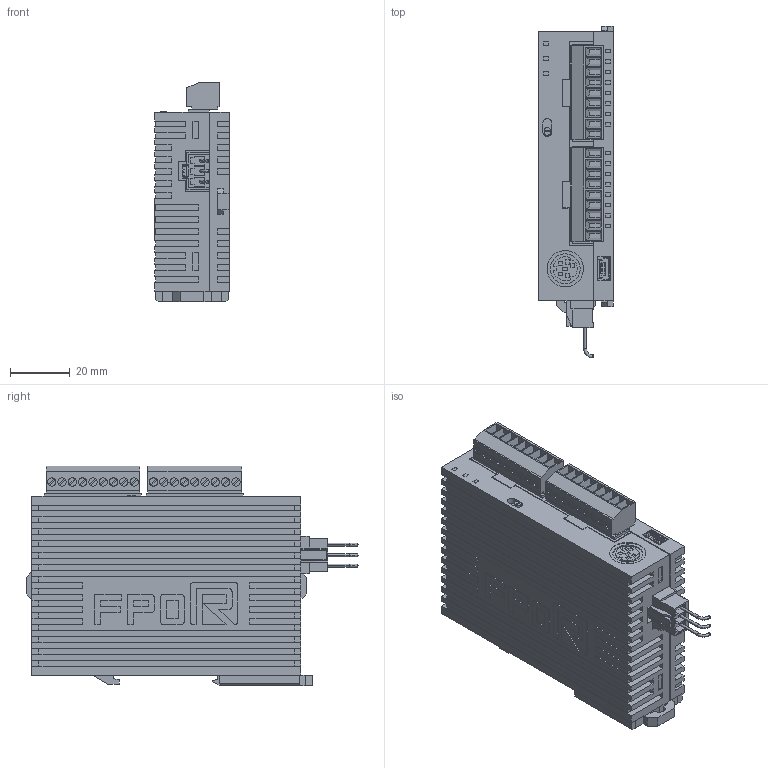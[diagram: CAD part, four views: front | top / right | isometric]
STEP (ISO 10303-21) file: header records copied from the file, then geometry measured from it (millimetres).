
FILE_DESCRIPTION (( 'STEP AP203' ), '1' );
FILE_NAME ('afp0rc14rs.STEP', '2013-06-28T03:55:44', ( 'sunx' ), ( 'sunx' ), 'SwSTEP 2.0', 'SolidWorks 2010', '' );
FILE_SCHEMA (( 'CONFIG_CONTROL_DESIGN' ));
Length unit declared in the file: millimetre
Products named in the file (1): afp0rc14rs
Bounding box: 25 x 111.2 x 73.45 mm (x, y, z)
Volume: 139234.8 mm3; surface area: 27966.1 mm2
Topology: 1 solids, 1 shells, 1090 faces, 2915 edges, 1926 vertices
Faces by surface type: plane 987, cylinder 97, torus 6
Entity records: 33539 total; most frequent: CARTESIAN_POINT 5932, ORIENTED_EDGE 5830, DIRECTION 5368, EDGE_CURVE 2915, VECTOR 2644, LINE 2644, VERTEX_POINT 1926, AXIS2_PLACEMENT_3D 1362
